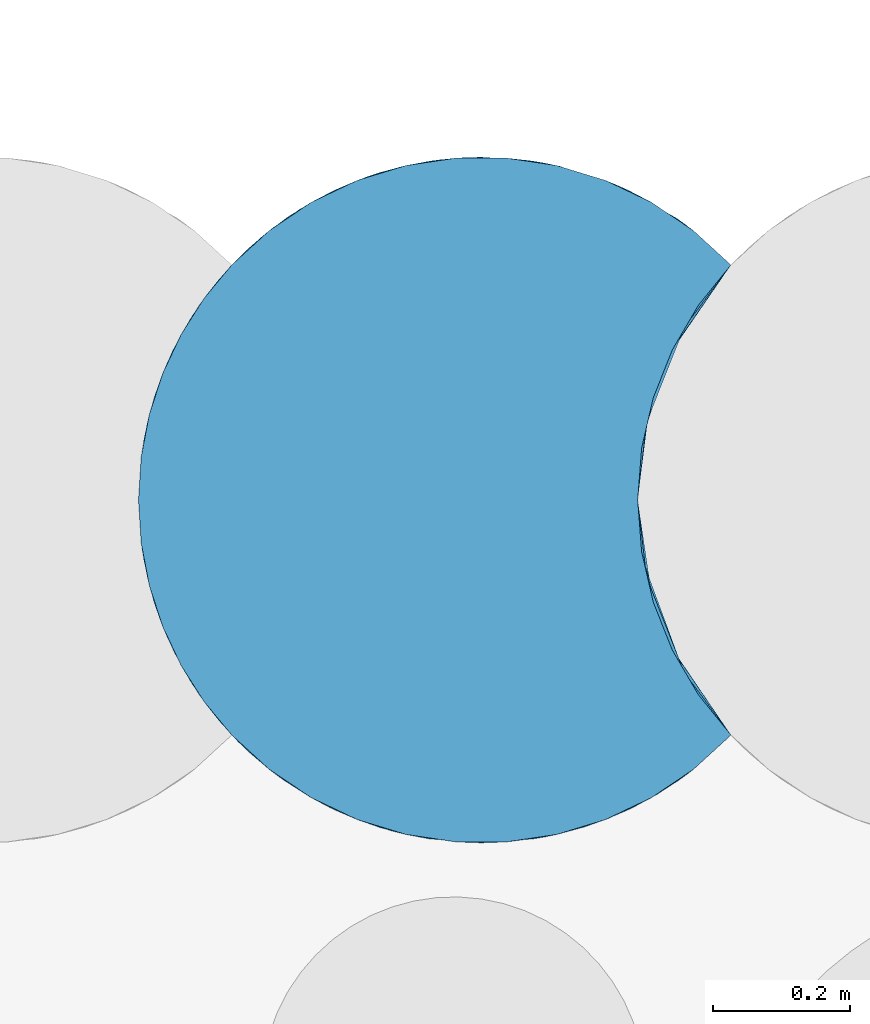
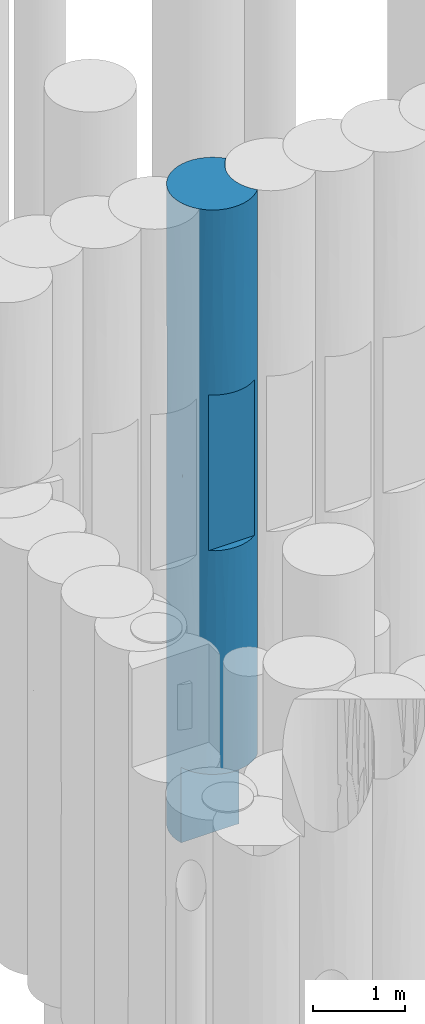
# One storey, part 62 of 104: 1 pile.
"""IFC2X3 building model written with IfcOpenShell, lengths in millimetres."""

from ifc_helpers import new_model, entity, si_unit, converted_unit, derived_unit, direction, frame, origin, place, context, subcontext, project, spatial, faceted_brep, source, transform, mapped, material, element, save


model = new_model("IFC2X3")

# Units and contexts
model_context = context("Model", 3, precision=0.01, world=origin(), true_north=direction((6.12303176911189e-17, 1.0)))
body_context = subcontext(model_context, "Body", "Model", "MODEL_VIEW")
ifc_project = project(units=[si_unit("LENGTHUNIT", "METRE", prefix="MILLI"), si_unit("AREAUNIT", "SQUARE_METRE", prefix="MILLI"), si_unit("VOLUMEUNIT", "CUBIC_METRE"), converted_unit("PLANEANGLEUNIT", "DEGREE", entity("IfcRatioMeasure", 0.0174532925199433), si_unit("PLANEANGLEUNIT", "RADIAN"), dimensions=[0, 0, 0, 0, 0, 0, 0]), si_unit("MASSUNIT", "GRAM", prefix="KILO"), derived_unit("MASSDENSITYUNIT", [(si_unit("MASSUNIT", "GRAM", prefix="KILO"), 1), (si_unit("LENGTHUNIT", "METRE"), -3)]), derived_unit("MOMENTOFINERTIAUNIT", [(si_unit("LENGTHUNIT", "METRE"), 4)]), si_unit("TIMEUNIT", "SECOND"), si_unit("FREQUENCYUNIT", "HERTZ"), si_unit("THERMODYNAMICTEMPERATUREUNIT", "DEGREE_CELSIUS"), derived_unit("THERMALTRANSMITTANCEUNIT", [(si_unit("MASSUNIT", "GRAM", prefix="KILO"), 1), (si_unit("THERMODYNAMICTEMPERATUREUNIT", "KELVIN"), -1), (si_unit("TIMEUNIT", "SECOND"), -3)]), derived_unit("VOLUMETRICFLOWRATEUNIT", [(si_unit("LENGTHUNIT", "METRE"), 3), (si_unit("TIMEUNIT", "SECOND"), -1)]), si_unit("ELECTRICCURRENTUNIT", "AMPERE"), si_unit("ELECTRICVOLTAGEUNIT", "VOLT"), si_unit("POWERUNIT", "WATT"), si_unit("FORCEUNIT", "NEWTON", prefix="KILO"), si_unit("ILLUMINANCEUNIT", "LUX"), si_unit("LUMINOUSFLUXUNIT", "LUMEN"), si_unit("LUMINOUSINTENSITYUNIT", "CANDELA"), derived_unit("USERDEFINED", [(si_unit("MASSUNIT", "GRAM", prefix="KILO"), -1), (si_unit("LENGTHUNIT", "METRE"), -2), (si_unit("TIMEUNIT", "SECOND"), 3), (si_unit("LUMINOUSFLUXUNIT", "LUMEN"), 1)]), derived_unit("LINEARVELOCITYUNIT", [(si_unit("LENGTHUNIT", "METRE"), 1), (si_unit("TIMEUNIT", "SECOND"), -1)]), si_unit("PRESSUREUNIT", "PASCAL"), derived_unit("USERDEFINED", [(si_unit("LENGTHUNIT", "METRE"), -2), (si_unit("MASSUNIT", "GRAM", prefix="KILO"), 1), (si_unit("TIMEUNIT", "SECOND"), -2)]), derived_unit("LINEARFORCEUNIT", [(si_unit("MASSUNIT", "GRAM", prefix="KILO"), 1), (si_unit("LENGTHUNIT", "METRE"), 1), (si_unit("TIMEUNIT", "SECOND"), -2), (si_unit("LENGTHUNIT", "METRE"), -1)]), derived_unit("PLANARFORCEUNIT", [(si_unit("MASSUNIT", "GRAM", prefix="KILO"), 1), (si_unit("LENGTHUNIT", "METRE"), 1), (si_unit("TIMEUNIT", "SECOND"), -2), (si_unit("LENGTHUNIT", "METRE"), -2)])], contexts=[model_context])

# Site, building, storey
site_placement = place(None, origin())
site = spatial("IfcSite", under=ifc_project, at=site_placement, Name="Theater aan de Parade", CompositionType="ELEMENT")
building_placement = place(site_placement, origin())
building = spatial("IfcBuilding", under=site, at=building_placement, Name="Theater aan de Parade", CompositionType="ELEMENT")
storey_placement = place(building_placement, frame((0.0, 0.0, -5520.0)))
storey = spatial("IfcBuildingStorey", under=building, at=storey_placement, Name="-2 kelder", CompositionType="ELEMENT", Elevation=-5520.0)

# Pile
ifc_material = material(Name="00_PBT_MAT_grout")
shared_shape = source(origin(), body_context, "Body", "Brep", [
    faceted_brep([(464.560582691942, 1000.22181762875, 0.0), (538.616668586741, 1000.22280478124, 0.0), (611.860911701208, 989.28522369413, 0.0), (682.68673439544, 967.648790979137, 0.0), (749.540520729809, 935.787802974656, 0.0), (810.955686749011, 894.400737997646, 0.0), (865.595272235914, 844.38383680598, 0.0), (818.150067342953, 785.695330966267, 0.0), (780.078223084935, 720.53458465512, 0.0), (752.247075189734, 650.386060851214, 0.0), (735.29066042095, 576.847851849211, 0.0), (729.595272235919, 501.595272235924, 0.0), (734.989545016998, 428.347920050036, 0.0), (751.055970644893, 356.681032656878, 0.0), (23.0559706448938, 356.681032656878, 0.0), (6.99002046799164, 428.344709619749, 0.0), (1.5952722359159, 501.595272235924, 0.0), (5.55623942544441, 564.406719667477, 0.0), (17.3678310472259, 626.189755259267, 0.0), (36.8430214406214, 686.000655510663, 0.0), (63.6725852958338, 742.891190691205, 0.0), (97.4346759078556, 795.966147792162, 0.0), (137.5957946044, 844.383899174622, 0.0), (192.227350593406, 894.394825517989, 0.0), (253.640398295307, 935.782306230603, 0.0), (320.492432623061, 967.644369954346, 0.0), (391.316996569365, 989.282366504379, 0.0), (865.595272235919, 844.38383680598, 1561.53780933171), (789.401321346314, 910.456713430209, 1491.00548248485), (799.657477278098, 903.041310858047, 2504.8821061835), (26.1639417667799, 656.401764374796, 1423.71039154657), (50.5548382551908, 717.378790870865, 815.522482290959), (716.704326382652, 952.957759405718, 974.743749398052), (575.441567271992, 996.111929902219, 1365.35911550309), (789.401320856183, 910.456713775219, 6978.99451100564), (810.955686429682, 894.400738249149, 8470.0), (865.595272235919, 844.38383680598, 6908.46219066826), (790.879670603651, 909.412065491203, 5813.0119179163), (865.595272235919, 844.38383680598, 5571.73180767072), (865.595272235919, 844.38383680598, 5346.92438133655), (538.616668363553, 1000.22280479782, 8470.0), (611.860911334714, 989.285223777, 8470.0), (575.441567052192, 996.111929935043, 7150.26699538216), (36.7297114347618, 685.714826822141, 2307.62641859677), (64.0996250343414, 743.664598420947, 1628.37591838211), (222.16655921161, 916.227150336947, 956.748364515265), (355.503556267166, 979.776420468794, 1427.16858692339), (501.588606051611, 1001.59527219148, 2596.73325583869), (463.496981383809, 1000.14167953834, 1072.24580175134), (865.595272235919, 844.38383680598, 8470.0), (222.166558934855, 916.227150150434, 1972.30012717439), (217.544033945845, 913.074183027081, 3221.63866937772), (333.161300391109, 972.371224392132, 2861.22474137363), (286.475705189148, 952.952749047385, 7480.63704182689), (192.227350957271, 894.394825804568, 8470.0), (253.640398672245, 935.78230644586, 8470.0), (100.736484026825, 800.446793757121, 6793.03274327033), (163.989554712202, 870.407391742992, 7127.47212773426), (196.918801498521, 898.044825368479, 6218.94986965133), (865.595272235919, 844.38383680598, 4235.0), (785.426204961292, 913.226176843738, 4790.96227754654), (79.757522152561, 770.022008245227, 7621.93766369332), (63.6725852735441, 742.89119065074, 8470.0), (97.4346759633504, 795.966147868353, 8470.0), (692.579720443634, 963.682861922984, 4235.0), (794.511313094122, 906.811502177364, 3679.03770634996), (116.757578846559, 820.812987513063, 1364.08942331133), (716.704325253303, 952.957759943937, 6462.73277506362), (716.704325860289, 952.957759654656, 7495.25624707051), (716.70432577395, 952.957759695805, 2007.26721704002), (36.8430215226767, 686.000655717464, 8470.0), (464.560582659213, 1000.22181762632, 8470.0), (682.686733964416, 967.648791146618, 8470.0), (749.540520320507, 935.787803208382, 8470.0), (1.59527223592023, 501.595272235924, 1058.74569867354), (1.59527223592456, 501.595272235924, 1561.53750746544), (286.475704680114, 952.952748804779, 4235.0), (286.475704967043, 952.952748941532, 6434.30301971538), (236.846141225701, 925.750783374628, 5334.65151001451), (13.5254225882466, 610.167008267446, 7372.75274235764), (17.3678311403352, 626.189755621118, 8470.0), (150.377453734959, 857.468907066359, 2562.8963121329), (79.7181549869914, 769.960131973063, 2632.86902156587), (49.3623188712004, 714.868233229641, 6938.44019104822), (712.525517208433, 954.925650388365, 3129.72297922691), (501.588606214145, 1001.59527219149, 5873.26673738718), (569.755285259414, 996.927698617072, 4755.12996065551), (476.322275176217, 1000.95613936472, 5007.14730889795), (391.316996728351, 989.28236654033, 8470.0), (427.735977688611, 996.109988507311, 7104.64110728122), (9.23358182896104, 588.658271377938, 2342.30656064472), (116.757578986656, 820.812987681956, 5893.90174013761), (33.0262183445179, 676.074616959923, 5347.10350774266), (137.605579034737, 844.3947810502, 8470.0), (438.38163008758, 997.583211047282, 3963.78240309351), (320.492432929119, 967.64437007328, 8470.0), (43.0784257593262, 701.000140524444, 4473.88274990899), (11.2142039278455, 599.198591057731, 4667.65803343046), (1.59527223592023, 501.595272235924, 8470.0), (5.55623942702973, 564.406719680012, 8470.0), (9.51542927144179, 590.237407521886, 5495.65544289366), (116.18581531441, 820.122430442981, 3373.18426703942), (182.11813440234, 886.217630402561, 4288.45203817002), (591.824887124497, 993.386504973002, 3489.10403538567), (18.4305593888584, 630.249305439, 6406.00282362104), (1.59527223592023, 501.595272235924, 2117.50286755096), (1.59527223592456, 501.595272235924, 3123.07501493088), (616.099631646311, 988.30745790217, 2440.53317146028), (386.192771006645, 988.095285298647, 6175.6487371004), (381.519799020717, 986.963051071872, 5169.51578005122), (613.759023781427, 988.852178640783, 6106.01087867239), (692.700363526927, 963.6329807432, 5361.94747271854), (75.4806634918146, 763.179561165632, 5112.43896971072), (135.725798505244, 842.387772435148, 5005.62909266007), (62.9697281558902, 741.611171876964, 3455.71179201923), (97.3058699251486, 795.789220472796, 4263.74923889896), (26.3526093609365, 656.979992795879, 3676.29325435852), (1.5952722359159, 501.595272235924, 3176.26003642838), (1.59527223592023, 501.595272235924, 4234.99353122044), (865.595272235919, 844.38383680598, 3123.07561866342), (865.59527223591, 844.38383680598, 2898.26819232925), (1.59527223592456, 501.595272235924, 5346.92498506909), (1.59527223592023, 501.595272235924, 5571.74329494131), (1.59527223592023, 501.595272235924, 6908.46249253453), (9.64634471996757, 412.229435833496, 1740.22151703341), (142.564343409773, 153.605628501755, 5505.0), (213.720794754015, 92.7820077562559, 4990.0), (213.720794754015, 92.7820077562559, 6020.0), (105.37576096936, 196.619701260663, 4545.53706327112), (23.0559706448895, 356.681032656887, 1000.0), (118.449639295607, 180.348600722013, 2386.24333985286), (32.2105587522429, 329.322259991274, 2204.65565011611), (68.8716500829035, 251.095238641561, 1000.0), (42.9278390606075, 302.537025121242, 1000.0), (789.469749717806, 92.7820077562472, 3960.0), (865.595272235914, 158.806707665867, 2867.49999999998), (865.595272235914, 158.806707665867, 3648.28895539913), (865.595272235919, 158.806707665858, 3801.24999999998), (865.595272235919, 158.806707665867, 4735.0), (865.595272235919, 158.806707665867, 5668.74999999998), (865.595272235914, 158.806707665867, 5821.74150431), (865.595272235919, 158.806707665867, 6602.49999999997), (789.469749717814, 92.7820077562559, 6020.0), (789.46974971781, 92.7820077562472, 4990.0), (8.81770549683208, 416.917827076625, 2646.87500001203), (286.476242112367, 50.2375395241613, 2461.25352631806), (193.933763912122, 107.45773748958, 2892.94860949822), (210.060946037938, 95.3838289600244, 1944.4214221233), (163.989554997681, 132.783152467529, 7198.38299068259), (79.7181554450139, 233.230411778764, 6604.44114999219), (148.072114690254, 148.011651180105, 6362.25477872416), (31.168025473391, 332.189825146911, 6056.32460068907), (75.6889135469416, 239.672051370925, 5520.0471003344), (253.641127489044, 67.4078218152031, 1000.0), (320.49275863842, 35.5460478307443, 1000.0), (55.1581908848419, 276.44214124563, 3318.48656657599), (757.302459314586, 71.9281516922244, 3141.67751696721), (789.630312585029, 92.8951186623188, 2324.13442625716), (391.316418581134, 13.9083086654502, 1000.0), (370.194185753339, 19.1704029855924, 1947.91557910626), (279.55854294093, 53.6000815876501, 3960.0), (391.335021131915, 13.904102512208, 2895.79416024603), (100.567273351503, 202.970852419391, 1000.0), (137.606416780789, 158.794873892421, 1000.0), (464.558867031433, 2.96885427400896, 1000.0), (501.586364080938, 1.59527231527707, 2460.4103360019), (29.9319094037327, 335.662538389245, 4903.36557309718), (121.478204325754, 176.770681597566, 3478.23530613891), (26.1639420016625, 346.788779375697, 7201.0302868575), (5.55623942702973, 438.783824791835, 8470.0), (79.7181554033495, 233.230411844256, 7559.63491729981), (63.6725852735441, 260.299353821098, 8470.0), (36.8430215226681, 317.1898887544, 8470.0), (810.955054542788, 108.789308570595, 1000.0), (865.595272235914, 158.806707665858, 1000.0), (865.595272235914, 158.806707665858, 1780.76885310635), (17.3678311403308, 377.000788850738, 8470.0), (137.605579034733, 158.795763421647, 8470.0), (865.595272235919, 158.806707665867, 7689.2311468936), (865.595272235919, 158.806707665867, 8470.0), (810.955686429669, 108.78980622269, 8470.0), (253.008900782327, 67.7694823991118, 7429.16293872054), (279.558542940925, 53.6000815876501, 6020.0), (749.538137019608, 67.4013802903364, 1000.0), (192.227350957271, 108.795718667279, 8470.0), (192.227830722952, 108.795340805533, 1000.0), (355.503557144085, 23.4141237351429, 7268.21560542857), (14.4159189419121, 389.095149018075, 3705.62500005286), (320.492432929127, 35.5461743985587, 8470.0), (391.316996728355, 13.9081779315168, 8470.0), (350.609564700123, 24.9367822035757, 6020.0), (501.595272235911, 1.59527223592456, 3960.0), (425.205629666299, 7.4651046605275, 3960.0), (538.613909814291, 2.96753486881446, 1000.0), (611.857533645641, 13.9045570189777, 1000.0), (595.049042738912, 10.4065175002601, 1977.18809802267), (682.683430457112, 35.5404697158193, 1000.0), (688.656307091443, 37.9055384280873, 2500.38146572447), (97.4346759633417, 207.224396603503, 8470.0), (682.686733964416, 35.5417533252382, 8470.0), (611.860911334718, 13.9053206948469, 8470.0), (611.870435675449, 13.9074742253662, 7434.83465826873), (595.687386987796, 10.5283990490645, 2967.0115675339), (577.984914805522, 7.4651046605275, 3960.0), (749.540520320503, 67.4027412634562, 8470.0), (716.704326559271, 50.2327851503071, 7267.64689878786), (803.386835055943, 102.945234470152, 7145.86557351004), (577.984914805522, 7.4651046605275, 6020.0), (501.588607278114, 1.5952722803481, 7268.66818084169), (501.595272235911, 1.59527223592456, 6020.0), (723.632001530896, 53.6000815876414, 6020.0), (865.595272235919, 158.806707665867, 2561.54745108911), (652.580979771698, 24.9367822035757, 3960.0), (723.632001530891, 53.6000815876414, 3960.0), (213.720794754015, 92.7820077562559, 3960.0), (253.64039867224, 67.4082380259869, 8470.0), (425.205629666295, 7.4651046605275, 6020.0), (464.560582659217, 2.96872684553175, 8470.0), (652.580979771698, 24.9367822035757, 6020.0), (538.616668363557, 2.96773967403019, 8470.0), (865.59527223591, 158.806707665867, 6908.48300862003), (350.609564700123, 24.9367822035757, 3960.0), (818.150067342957, 217.495213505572, 8470.0), (780.078223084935, 282.655959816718, 8470.0), (752.247075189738, 352.804483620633, 8470.0), (735.29066042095, 426.342692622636, 8470.0), (729.595272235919, 501.595272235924, 8470.0), (735.29066042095, 576.847851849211, 8470.0), (752.247075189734, 650.386060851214, 8470.0), (780.078223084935, 720.53458465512, 8470.0), (818.150067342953, 785.695330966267, 8470.0), (751.055970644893, 356.681032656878, 1000.0), (778.900945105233, 285.089790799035, 1000.0), (817.383474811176, 218.608639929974, 1000.0), (742.379444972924, 613.937328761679, 959.062888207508), (738.151011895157, 593.695972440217, 6638.44327873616), (742.379444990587, 613.937328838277, 7510.93711044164), (729.595272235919, 501.595272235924, 6908.4597613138), (808.681716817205, 771.468907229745, 6638.44327726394), (781.985001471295, 724.40695394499, 5169.28730842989), (797.883005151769, 753.834282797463, 959.062888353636), (764.837270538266, 685.986160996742, 1706.36651512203), (797.883005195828, 753.834282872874, 7510.93711014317), (729.595272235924, 501.595272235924, 1561.54023868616), (729.595272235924, 501.595272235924, 1058.75298998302), (808.681716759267, 771.468907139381, 1831.55672113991), (778.799150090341, 717.888721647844, 2630.65322090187), (766.296890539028, 689.62348691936, 3566.63442778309), (739.967026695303, 602.90756748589, 2500.19182196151), (729.595272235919, 501.595272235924, 3123.08047737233), (729.595272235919, 501.595272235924, 2117.50597996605), (764.837270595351, 685.986161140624, 6763.63348211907), (798.309538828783, 754.56289103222, 4260.62631723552), (810.907944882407, 774.909966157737, 3324.34692372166), (745.175048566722, 625.438103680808, 5612.66192558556), (744.930852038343, 624.47895624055, 4544.29323307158), (738.502483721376, 595.552033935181, 3413.30504808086), (729.595272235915, 501.595272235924, 4235.01242423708), (729.595272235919, 501.595272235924, 5571.72573206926), (729.595272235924, 501.595272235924, 5346.93194686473), (729.595272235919, 501.595272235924, 3176.24701001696), (737.652631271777, 412.194835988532, 1740.61215192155), (796.86362242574, 251.109106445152, 1977.4908264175), (808.103941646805, 232.6249053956, 2870.31406883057), (797.883005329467, 249.356261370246, 7510.9371107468), (762.458274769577, 323.317327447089, 4903.36557316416), (741.179889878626, 394.588663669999, 5988.20523574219), (778.685121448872, 285.53964070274, 5822.23176538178), (742.379445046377, 389.253215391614, 7510.93711054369), (764.837270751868, 317.204382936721, 6763.63348277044), (808.681717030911, 231.721636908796, 6638.44327929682), (736.645152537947, 417.928196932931, 2646.87500001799), (763.601591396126, 320.349887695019, 2739.79071288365), (736.819640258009, 416.906568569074, 5098.3280587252), (739.99601766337, 400.142968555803, 3705.62500000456), (776.673795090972, 289.788436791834, 3825.9012691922), (807.285378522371, 233.91196369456, 5061.9220930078)], [[[0, 1, 2, 3, 4, 5, 6, 7, 8, 9, 10, 11, 12, 13, 14, 15, 16, 17, 18, 19, 20, 21, 22, 23, 24, 25, 26]], [[27, 28, 29]], [[18, 30, 31]], [[4, 3, 32]], [[32, 2, 33]], [[34, 35, 36]], [[37, 36, 38, 39]], [[40, 41, 42]], [[30, 43, 44]], [[45, 46, 25]], [[47, 33, 48]], [[6, 5, 27]], [[35, 49, 36]], [[1, 48, 33]], [[26, 46, 48]], [[50, 51, 52]], [[53, 54, 55]], [[56, 57, 58]], [[39, 59, 60]], [[28, 5, 32]], [[61, 62, 63]], [[64, 60, 65]], [[25, 46, 26]], [[45, 22, 66]], [[24, 23, 45]], [[67, 68, 34]], [[28, 32, 69]], [[25, 24, 45]], [[70, 62, 61]], [[71, 40, 42]], [[68, 72, 73]], [[0, 48, 1]], [[42, 41, 68]], [[17, 16, 74, 75]], [[52, 51, 76]], [[58, 77, 78]], [[31, 21, 20]], [[70, 79, 80]], [[1, 33, 2]], [[66, 50, 45]], [[31, 19, 18]], [[81, 66, 82]], [[79, 70, 83]], [[65, 29, 84]], [[17, 75, 30]], [[85, 86, 87]], [[53, 88, 89]], [[30, 75, 90]], [[30, 18, 17]], [[42, 85, 89]], [[83, 91, 92]], [[57, 61, 93]], [[4, 32, 5]], [[89, 88, 71]], [[52, 94, 47]], [[95, 53, 55]], [[96, 97, 92]], [[42, 89, 71]], [[98, 99, 79]], [[54, 53, 57]], [[93, 54, 57]], [[92, 97, 100]], [[51, 101, 102]], [[103, 64, 84]], [[57, 56, 61]], [[44, 31, 30]], [[100, 104, 92]], [[79, 99, 80]], [[50, 52, 46]], [[66, 22, 21]], [[90, 75, 105, 106]], [[76, 102, 78]], [[107, 33, 47]], [[33, 69, 32]], [[42, 68, 67]], [[108, 85, 109]], [[89, 77, 53]], [[68, 41, 72]], [[110, 42, 67]], [[53, 95, 88]], [[57, 53, 77]], [[32, 3, 2]], [[45, 23, 22]], [[46, 45, 50]], [[68, 73, 35]], [[107, 84, 69]], [[111, 67, 37]], [[112, 91, 113]], [[96, 92, 112]], [[51, 102, 76]], [[101, 114, 115]], [[94, 52, 76]], [[47, 46, 52]], [[109, 94, 76]], [[103, 86, 64]], [[90, 43, 30]], [[116, 106, 117, 118]], [[29, 28, 69]], [[5, 28, 27]], [[84, 29, 69]], [[29, 119, 120, 27]], [[103, 107, 47]], [[65, 60, 59]], [[47, 94, 103]], [[109, 87, 94]], [[94, 86, 103]], [[111, 110, 67]], [[111, 60, 64]], [[119, 65, 59]], [[37, 39, 60]], [[64, 86, 111]], [[110, 86, 85]], [[86, 110, 111]], [[42, 110, 85]], [[29, 65, 119]], [[65, 84, 64]], [[111, 37, 60]], [[37, 67, 34]], [[35, 34, 68]], [[37, 34, 36]], [[78, 109, 76]], [[89, 108, 77]], [[84, 107, 103]], [[33, 107, 69]], [[81, 51, 50]], [[81, 101, 51]], [[115, 113, 102]], [[57, 77, 58]], [[78, 102, 113]], [[109, 78, 77]], [[66, 81, 50]], [[101, 81, 82]], [[114, 101, 82]], [[102, 101, 115]], [[43, 114, 82]], [[114, 116, 96]], [[112, 113, 115]], [[113, 91, 58]], [[115, 114, 96]], [[91, 112, 92]], [[115, 96, 112]], [[118, 97, 116]], [[100, 97, 121]], [[116, 97, 96]], [[121, 97, 118]], [[100, 121, 122, 123]], [[123, 79, 104]], [[113, 58, 78]], [[56, 58, 91]], [[104, 79, 83]], [[79, 123, 98]], [[92, 104, 83]], [[123, 104, 100]], [[106, 116, 90]], [[116, 114, 43]], [[116, 43, 90]], [[44, 82, 66]], [[82, 44, 43]], [[66, 21, 31]], [[66, 31, 44]], [[19, 31, 20]], [[91, 83, 56]], [[61, 56, 83]], [[61, 83, 70]], [[61, 63, 93]], [[26, 48, 0]], [[47, 48, 46]], [[94, 87, 86]], [[109, 85, 87]], [[85, 108, 89]], [[109, 77, 108]], [[124, 105, 75, 74]], [[125, 126, 127]], [[126, 125, 128]], [[129, 15, 14]], [[130, 131, 132]], [[129, 133, 131]], [[134, 135, 136, 137, 138, 139, 140, 141, 142, 143]], [[144, 117, 106, 105]], [[132, 131, 133]], [[129, 124, 74]], [[145, 146, 147]], [[148, 149, 150]], [[149, 151, 152]], [[145, 153, 154]], [[131, 130, 155]], [[135, 156, 157]], [[154, 158, 159]], [[153, 145, 147]], [[160, 145, 161]], [[130, 162, 163]], [[164, 165, 159]], [[122, 166, 151]], [[160, 146, 145]], [[130, 167, 155]], [[123, 168, 169]], [[148, 170, 149]], [[170, 171, 172]], [[173, 174, 175]], [[176, 168, 172]], [[123, 122, 151]], [[170, 172, 168]], [[170, 148, 177]], [[178, 179, 180]], [[181, 127, 182]], [[183, 173, 157]], [[128, 166, 155]], [[184, 177, 148]], [[147, 163, 185]], [[181, 182, 186]], [[187, 166, 118]], [[181, 184, 148]], [[188, 186, 189]], [[186, 188, 181]], [[186, 182, 190]], [[187, 117, 144]], [[131, 144, 124]], [[168, 149, 170]], [[169, 98, 123]], [[168, 151, 149]], [[161, 191, 192]], [[150, 125, 127]], [[165, 164, 193]], [[166, 122, 121, 118]], [[193, 194, 195]], [[195, 196, 197]], [[170, 177, 198]], [[165, 161, 159]], [[199, 200, 201]], [[191, 161, 165]], [[191, 165, 202]], [[127, 148, 150]], [[191, 202, 203]], [[187, 118, 117]], [[204, 205, 206]], [[207, 208, 209]], [[206, 210, 142]], [[157, 175, 211, 135]], [[197, 156, 212]], [[202, 195, 197]], [[130, 146, 167]], [[173, 175, 157]], [[213, 156, 134]], [[146, 160, 214]], [[180, 204, 206]], [[188, 215, 181]], [[183, 197, 196]], [[130, 132, 162]], [[216, 186, 190]], [[208, 217, 189]], [[218, 205, 201]], [[186, 216, 208]], [[156, 135, 134]], [[208, 189, 186]], [[212, 156, 213]], [[217, 208, 219]], [[219, 208, 201]], [[183, 157, 197]], [[218, 201, 207]], [[208, 216, 209]], [[212, 203, 202]], [[169, 168, 176]], [[144, 155, 187]], [[210, 205, 218]], [[128, 214, 126]], [[199, 205, 204]], [[151, 168, 123]], [[206, 142, 141]], [[206, 141, 220, 178]], [[152, 125, 150]], [[219, 201, 200]], [[198, 171, 170]], [[197, 157, 156]], [[152, 166, 128]], [[161, 221, 160]], [[166, 152, 151]], [[166, 187, 155]], [[128, 125, 152]], [[124, 144, 105]], [[144, 131, 155]], [[15, 129, 74]], [[131, 124, 129]], [[180, 206, 178]], [[16, 15, 74]], [[206, 205, 210]], [[152, 150, 149]], [[167, 214, 128]], [[130, 163, 147]], [[214, 167, 146]], [[155, 167, 128]], [[130, 147, 146]], [[153, 147, 185]], [[221, 161, 192]], [[159, 161, 145]], [[154, 159, 145]], [[159, 158, 164]], [[195, 202, 165]], [[212, 202, 197]], [[193, 195, 165]], [[195, 194, 196]], [[184, 181, 215]], [[181, 148, 127]], [[207, 201, 208]], [[199, 201, 205]], [[73, 72, 41, 40, 71, 88, 95, 55, 54, 93, 63, 62, 70, 80, 99, 98, 169, 176, 172, 171, 198, 177, 184, 215, 188, 189, 217, 219, 200, 199, 204, 180, 179, 222, 223, 224, 225, 226, 227, 228, 229, 230, 49, 35]], [[209, 216, 190, 182, 127, 142, 210, 218, 207]], [[214, 134, 143, 142, 127, 126]], [[160, 221, 192, 191, 203, 212, 213, 134, 214]], [[133, 129, 231, 232, 233, 174, 173, 183, 196, 194, 193, 164, 158, 154, 153, 185, 163, 162, 132]], [[231, 129, 14, 13]], [[10, 9, 234]], [[235, 236, 237]], [[38, 238, 239]], [[234, 240, 241]], [[6, 240, 7]], [[234, 9, 240]], [[242, 36, 49]], [[27, 240, 6]], [[234, 243, 244, 11]], [[237, 236, 226]], [[227, 226, 236]], [[241, 240, 245]], [[246, 247, 248]], [[248, 249, 250, 243]], [[230, 229, 242]], [[236, 251, 242]], [[246, 245, 120]], [[252, 247, 253]], [[236, 242, 229, 228]], [[228, 227, 236]], [[8, 7, 240]], [[254, 255, 239]], [[240, 9, 8]], [[10, 234, 11]], [[243, 234, 248]], [[251, 236, 235]], [[230, 242, 49]], [[36, 242, 238]], [[120, 253, 246]], [[245, 240, 27]], [[256, 248, 247]], [[255, 256, 247]], [[242, 251, 238]], [[241, 245, 246]], [[245, 27, 120]], [[241, 246, 248]], [[253, 247, 246]], [[234, 241, 248]], [[256, 249, 248]], [[252, 255, 247]], [[253, 120, 119, 59]], [[255, 257, 256]], [[252, 253, 59]], [[239, 251, 254]], [[235, 237, 258, 259]], [[252, 59, 39, 38]], [[238, 251, 239]], [[38, 36, 238]], [[38, 239, 252]], [[252, 239, 255]], [[235, 259, 254]], [[255, 254, 259]], [[235, 254, 251]], [[256, 257, 260, 249]], [[255, 259, 257]], [[261, 244, 243, 250]], [[211, 262, 263]], [[233, 262, 174]], [[13, 12, 231]], [[222, 179, 264]], [[261, 231, 244]], [[265, 266, 267]], [[268, 237, 226]], [[225, 224, 268]], [[269, 264, 270]], [[271, 272, 261]], [[233, 232, 262]], [[261, 272, 262]], [[223, 264, 268, 224]], [[262, 211, 175, 174]], [[264, 269, 268]], [[271, 250, 249, 260]], [[231, 262, 232]], [[263, 262, 272]], [[266, 265, 273]], [[257, 274, 260]], [[270, 264, 220]], [[223, 222, 264]], [[264, 179, 178, 220]], [[225, 268, 226]], [[237, 268, 266]], [[266, 258, 237]], [[272, 275, 263]], [[269, 267, 266]], [[275, 138, 137, 136]], [[275, 276, 138]], [[275, 136, 263]], [[275, 272, 274]], [[263, 136, 135, 211]], [[274, 273, 265]], [[271, 260, 274]], [[275, 274, 265]], [[250, 271, 261]], [[272, 271, 274]], [[244, 231, 12]], [[262, 231, 261]], [[269, 270, 267]], [[244, 12, 11]], [[267, 270, 140]], [[267, 140, 276]], [[270, 220, 141, 140]], [[276, 265, 267]], [[268, 269, 266]], [[273, 258, 266]], [[265, 276, 275]], [[276, 140, 139, 138]], [[273, 257, 259, 258]], [[257, 273, 274]]]),
])
pile_placement = place(storey_placement, frame((37064.2628578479, 43807.2179922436, -3840.0)))
element("IfcPile", 1, at=pile_placement, inside=storey, material=ifc_material, Name="17_PBT_SFO_grondkering_rond:Ø1000 (grondkering)", ObjectType="17_PBT_SFO_grondkering_rond:Ø1000 (grondkering)", PredefinedType="NOTDEFINED", context=body_context, shape_type="MappedRepresentation", body=[
    mapped(shared_shape, transform((0.0, 0.0, 0.0), scale=1.0)),
])

save(model, "model.ifc")
